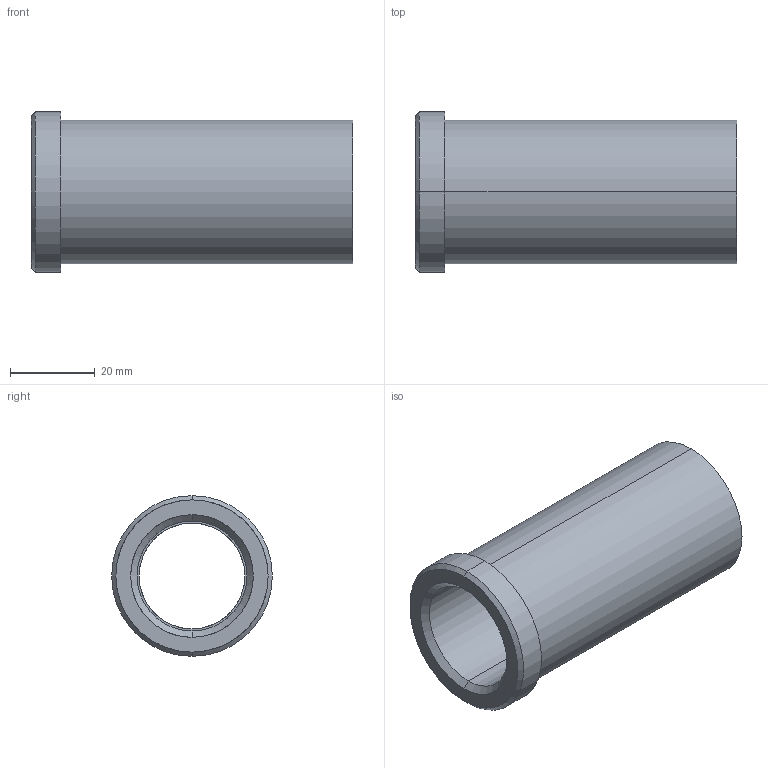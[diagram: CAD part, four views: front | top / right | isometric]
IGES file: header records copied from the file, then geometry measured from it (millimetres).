
Start section: START RECORD GO HERE.
Global section: file name: 353-25X76.igs; native system: DASSAULT SYSTEMES CATIA V5 R20 - www.3ds.com; preprocessor: CATIA Version 5 Release 20 ; author: Utente; organization: NB04-ASUS; date: 20210512.204313; units: millimetre
Bounding box: 76 x 38 x 38 mm (x, y, z)
Surface area: 15337.3 mm2 (no closed solid volume)
Topology: 0 solids, 0 shells, 18 faces, 116 edges, 116 vertices
Faces by surface type: revolution 14, plane 4
